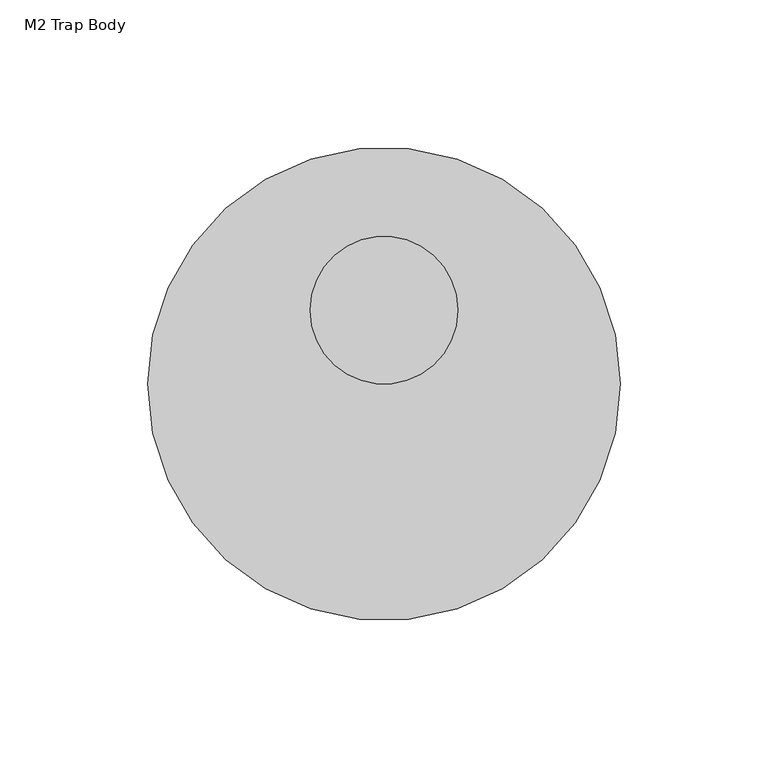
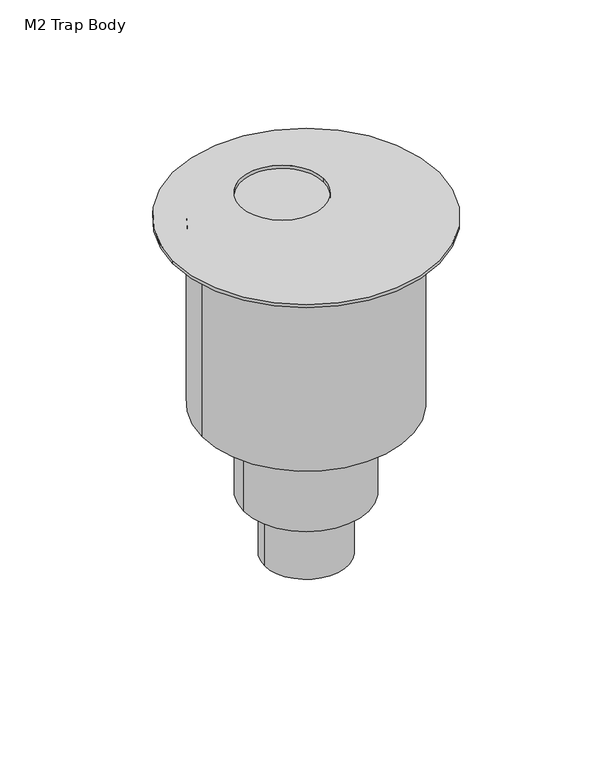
"""IFC4 building model written with IfcOpenShell, lengths in millimetres: sanitary terminal geometry, Z_DO_NOT_USE_NLRS_PF_52_UN_M2 Vertical Outlet_Easydrain : M2 Trap Body."""

from ifc_helpers import new_model, si_unit, point, frame, frame_2d, origin, origin_2d, place, context, project, spatial, circle_curve, trimmed, segment, composite_curve, outline, extrude, source, transform, mapped, element, save


def m2_trap_body_7347115e(model_context):
    return source(origin(), model_context, "Body", "SweptSolid", [
        extrude(outline(composite_curve([segment(trimmed(circle_curve(frame_2d((0.0, -25.0)), 80.0), [point((-80.0, -25.0))], [point((80.0, -25.0))], False, "CARTESIAN"), True, "CONTINUOUS"), segment(trimmed(circle_curve(frame_2d((0.0, -25.0)), 80.0), [point((80.0, -25.0))], [point((-80.0, -25.0))], False, "CARTESIAN"), True, "CONTINUOUS")], self_intersect=False), holes=[composite_curve([segment(trimmed(circle_curve(origin_2d(), 25.0), [point((-25.0, 0.0))], [point((25.0, 0.0))], True, "CARTESIAN"), True, "CONTINUOUS"), segment(trimmed(circle_curve(origin_2d(), 25.0), [point((25.0, 0.0))], [point((-25.0, 0.0))], True, "CARTESIAN"), True, "CONTINUOUS")], self_intersect=False)]), frame((0.0, 0.0, -2.0), z_axis=(0.0, 0.0, 1.0), x_axis=(1.0, 0.0, 0.0)), (0.0, 0.0, 1.0), 2.0),
        extrude(outline(composite_curve([segment(trimmed(circle_curve(frame_2d((0.0, -25.0)), 25.0), [point((-25.0, -25.0))], [point((25.0, -25.0))], False, "CARTESIAN"), True, "CONTINUOUS"), segment(trimmed(circle_curve(frame_2d((0.0, -25.0)), 25.0), [point((25.0, -25.0))], [point((-25.0, -25.0))], False, "CARTESIAN"), True, "CONTINUOUS")], self_intersect=False)), frame((0.0, 0.0, -213.0), z_axis=(0.0, 0.0, 1.0), x_axis=(1.0, 0.0, 0.0)), (0.0, 0.0, 1.0), 39.0),
        extrude(outline(composite_curve([segment(trimmed(circle_curve(frame_2d((0.0, -25.0)), 37.5), [point((-37.5, -25.0))], [point((37.5, -25.0))], False, "CARTESIAN"), True, "CONTINUOUS"), segment(trimmed(circle_curve(frame_2d((0.0, -25.0)), 37.5), [point((37.5, -25.0))], [point((-37.5, -25.0))], False, "CARTESIAN"), True, "CONTINUOUS")], self_intersect=False)), frame((0.0, 0.0, -174.0), z_axis=(0.0, 0.0, 1.0), x_axis=(1.0, 0.0, 0.0)), (0.0, 0.0, 1.0), 56.0),
        extrude(outline(composite_curve([segment(trimmed(circle_curve(frame_2d((0.0, -25.0)), 62.5), [point((-62.5, -25.0))], [point((62.5, -25.0))], False, "CARTESIAN"), True, "CONTINUOUS"), segment(trimmed(circle_curve(frame_2d((0.0, -25.0)), 62.5), [point((62.5, -25.0))], [point((-62.5, -25.0))], False, "CARTESIAN"), True, "CONTINUOUS")], self_intersect=False)), frame((0.0, 0.0, -118.0), z_axis=(0.0, 0.0, 1.0), x_axis=(1.0, 0.0, 0.0)), (0.0, 0.0, 1.0), 116.0),
    ])


if __name__ == "__main__":
    model = new_model("IFC4")
    model_context = context("Model", 3, world=origin())
    ifc_project = project(units=[si_unit("LENGTHUNIT", "METRE", prefix="MILLI")], contexts=[model_context])
    site = spatial("IfcSite", under=ifc_project)
    building = spatial("IfcBuilding", under=site)
    placement = place(None, origin())
    m2_trap_body_shape = m2_trap_body_7347115e(model_context)
    element("IfcSanitaryTerminal", 1, ObjectType="Z_DO_NOT_USE_NLRS_PF_52_UN_M2 Vertical Outlet_Easydrain : M2 Trap Body", at=placement, inside=building, context=model_context, shape_type="MappedRepresentation", body=[
        mapped(m2_trap_body_shape, transform((0.0, 0.0, 0.0), x_axis=(1.0, 0.0, 0.0), y_axis=(0.0, 1.0, 0.0), z_axis=(0.0, 0.0, 1.0))),
    ])
    save(model, "model.ifc")
